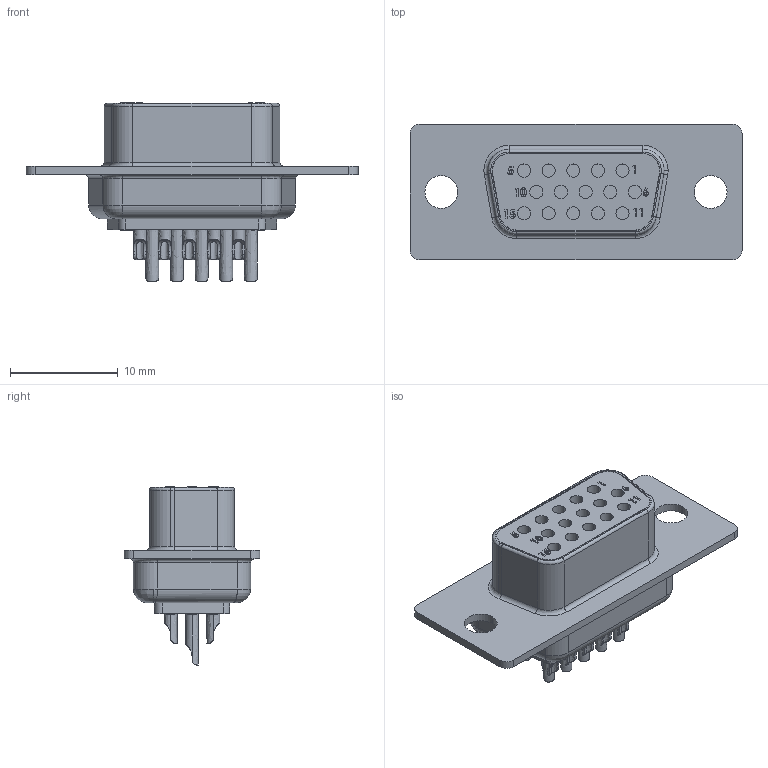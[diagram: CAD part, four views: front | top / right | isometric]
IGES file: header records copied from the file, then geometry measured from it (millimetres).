
Global section: file name: Filename.iges; native system: Open CASCADE 7.3; preprocessor: Open CASCADE IGES processor 7.3; date: 20201223.080450; units: millimetre
Bounding box: 30.81 x 12.6 x 16.54 mm (x, y, z)
Surface area: 2395.7 mm2 (no closed solid volume)
Topology: 0 solids, 0 shells, 490 faces, 2398 edges, 2398 vertices
Faces by surface type: plane 237, revolution 185, bspline 68
